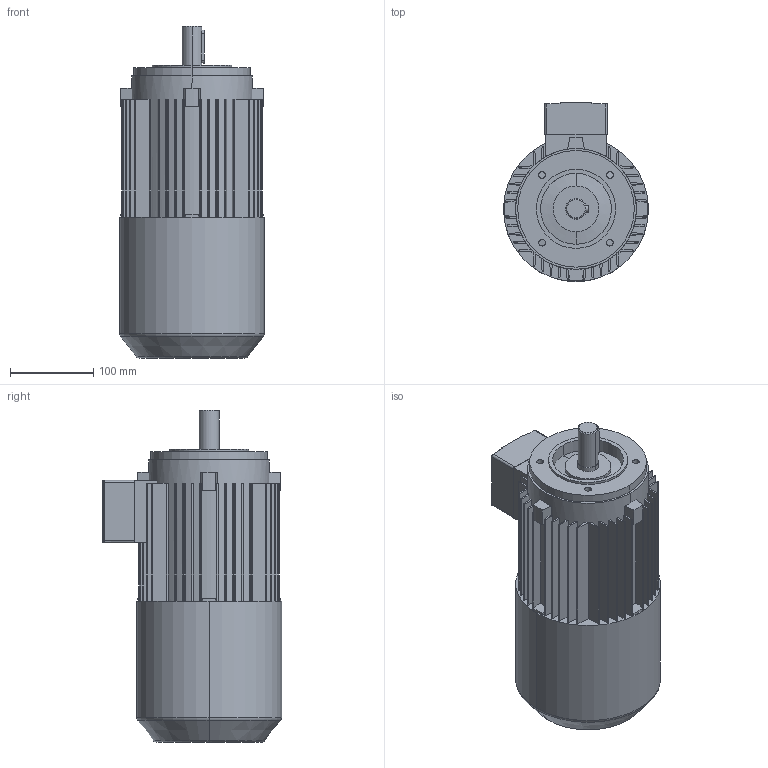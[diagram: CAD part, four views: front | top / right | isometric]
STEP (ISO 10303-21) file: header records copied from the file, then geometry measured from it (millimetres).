
FILE_DESCRIPTION((''),'2;1');
FILE_NAME('1LA7090-2AA12-Z-G26_PRT','2002-04-12T',('martin könig'),(''),'PRO/ENGINEER BY PARAMETRIC TECHNOLOGY CORPORATION, 2002030','PRO/ENGINEER BY PARAMETRIC TECHNOLOGY CORPORATION, 2002030','');
FILE_SCHEMA(('CONFIG_CONTROL_DESIGN'));
Length unit declared in the file: millimetre
Products named in the file (1): 1LA7090-2AA12-Z-G26_PRT
Bounding box: 174 x 215 x 398.5 mm (x, y, z)
Volume: 7294973.6 mm3; surface area: 379402.3 mm2
Topology: 1 solids, 1 shells, 279 faces, 772 edges, 508 vertices
Faces by surface type: plane 175, cylinder 90, cone 10, torus 4
Entity records: 9079 total; most frequent: CARTESIAN_POINT 1678, DIRECTION 1576, ORIENTED_EDGE 1544, EDGE_CURVE 772, AXIS2_PLACEMENT_3D 535, VERTEX_POINT 508, VECTOR 506, LINE 506
